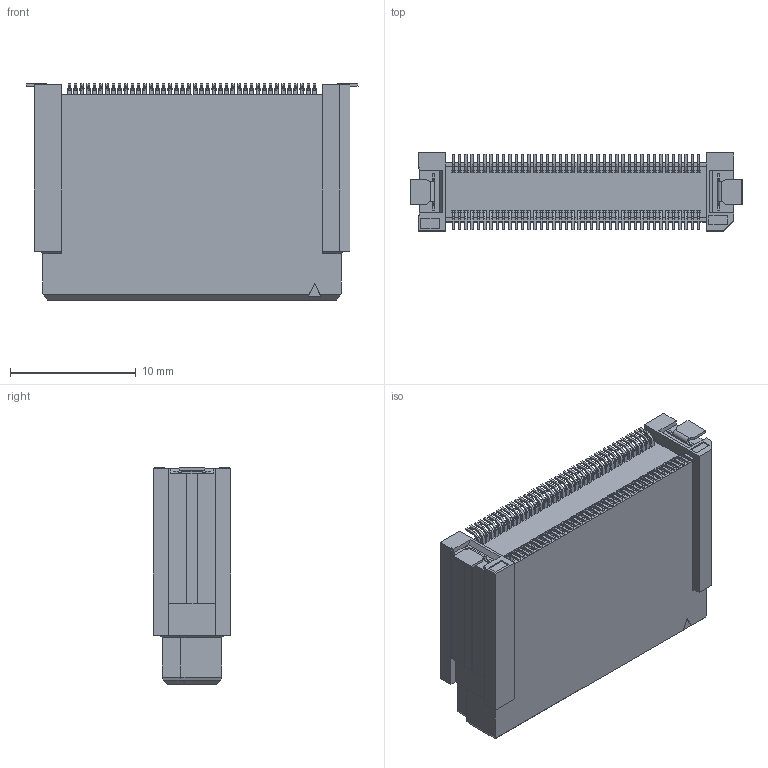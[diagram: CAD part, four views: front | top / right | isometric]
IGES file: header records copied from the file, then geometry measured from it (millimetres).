
Start section: Elysium IGES Interface
Global section: file name: 108HG:\その他\DT関連\【59期以前】\DT_CADﾃﾞｰﾀ\DT_3DCAD(客先提出用)\プラグ\-19\web用\igs\P3D464_DT10-080S-19-T.igs; native system: Creo Elements/Direct Modeling 20.4A  18-Oct-2021; preprocessor: Creo Element/Direct IGES_3D V2.2; author: Unknown; organization: Unknown; date: 20220316.111051; units: millimetre
Bounding box: 26.4 x 6.2 x 17.18 mm (x, y, z)
Volume: 1893.4 mm3; surface area: 1647.7 mm2
Topology: 1 solids, 1 shells, 2483 faces, 6994 edges, 4600 vertices
Faces by surface type: bspline 2483
